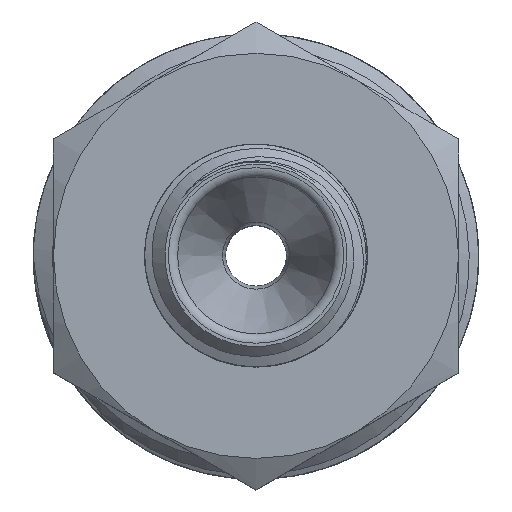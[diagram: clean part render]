
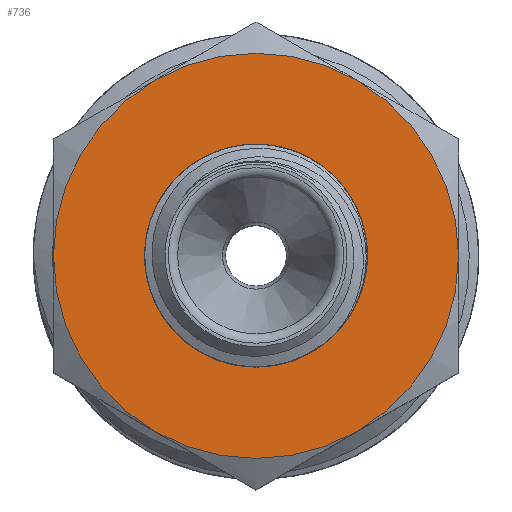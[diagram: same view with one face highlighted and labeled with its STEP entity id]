
A CAD part, top view. The second image highlights one B-rep face of the part: STEP entity #736.
In plain terms, the highlighted planar face has unit normal (0, 0, 1).
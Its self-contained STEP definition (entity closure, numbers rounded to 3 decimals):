
#163=PLANE('',#818);
#233=ORIENTED_EDGE('',*,*,#397,.T.);
#234=ORIENTED_EDGE('',*,*,#395,.F.);
#235=ORIENTED_EDGE('',*,*,#396,.F.);
#236=ORIENTED_EDGE('',*,*,#391,.F.);
#237=ORIENTED_EDGE('',*,*,#392,.F.);
#238=ORIENTED_EDGE('',*,*,#393,.F.);
#239=ORIENTED_EDGE('',*,*,#394,.F.);
#391=EDGE_CURVE('',#475,#450,#511,.T.);
#392=EDGE_CURVE('',#470,#475,#512,.T.);
#393=EDGE_CURVE('',#465,#470,#513,.T.);
#394=EDGE_CURVE('',#460,#465,#514,.T.);
#395=EDGE_CURVE('',#455,#460,#515,.T.);
#396=EDGE_CURVE('',#450,#455,#516,.T.);
#397=EDGE_CURVE('',#476,#476,#517,.T.);
#450=VERTEX_POINT('',#1132);
#455=VERTEX_POINT('',#1156);
#460=VERTEX_POINT('',#1182);
#465=VERTEX_POINT('',#1206);
#470=VERTEX_POINT('',#1232);
#475=VERTEX_POINT('',#1256);
#476=VERTEX_POINT('',#1279);
#511=CIRCLE('',#807,10.);
#512=CIRCLE('',#809,10.);
#513=CIRCLE('',#811,10.);
#514=CIRCLE('',#813,10.);
#515=CIRCLE('',#815,10.);
#516=CIRCLE('',#817,10.);
#517=CIRCLE('',#819,5.5);
#568=EDGE_LOOP('',(#233));
#569=EDGE_LOOP('',(#234,#235,#236,#237,#238,#239));
#650=FACE_BOUND('',#568,.T.);
#651=FACE_BOUND('',#569,.T.);
#736=ADVANCED_FACE('',(#650,#651),#163,.F.);
#807=AXIS2_PLACEMENT_3D('',#1266,#945,#946);
#809=AXIS2_PLACEMENT_3D('',#1268,#949,#950);
#811=AXIS2_PLACEMENT_3D('',#1270,#953,#954);
#813=AXIS2_PLACEMENT_3D('',#1272,#957,#958);
#815=AXIS2_PLACEMENT_3D('',#1274,#961,#962);
#817=AXIS2_PLACEMENT_3D('',#1276,#965,#966);
#818=AXIS2_PLACEMENT_3D('',#1277,#967,#968);
#819=AXIS2_PLACEMENT_3D('',#1278,#969,#970);
#945=DIRECTION('',(0.,0.,-1.));
#946=DIRECTION('',(-1.,0.,0.));
#949=DIRECTION('',(0.,0.,-1.));
#950=DIRECTION('',(-1.,0.,0.));
#953=DIRECTION('',(0.,0.,-1.));
#954=DIRECTION('',(-1.,0.,0.));
#957=DIRECTION('',(0.,0.,-1.));
#958=DIRECTION('',(-1.,0.,0.));
#961=DIRECTION('',(0.,0.,-1.));
#962=DIRECTION('',(-1.,0.,0.));
#965=DIRECTION('',(0.,0.,-1.));
#966=DIRECTION('',(-1.,0.,0.));
#967=DIRECTION('',(0.,0.,-1.));
#968=DIRECTION('',(-1.,0.,0.));
#969=DIRECTION('',(0.,0.,-1.));
#970=DIRECTION('',(-1.,0.,0.));
#1132=CARTESIAN_POINT('',(-5.,-8.66,8.));
#1156=CARTESIAN_POINT('',(-10.,0.,8.));
#1182=CARTESIAN_POINT('',(-5.,8.66,8.));
#1206=CARTESIAN_POINT('',(5.,8.66,8.));
#1232=CARTESIAN_POINT('',(10.,0.,8.));
#1256=CARTESIAN_POINT('',(5.,-8.66,8.));
#1266=CARTESIAN_POINT('',(0.,0.,8.));
#1268=CARTESIAN_POINT('',(0.,0.,8.));
#1270=CARTESIAN_POINT('',(0.,0.,8.));
#1272=CARTESIAN_POINT('',(0.,0.,8.));
#1274=CARTESIAN_POINT('',(0.,0.,8.));
#1276=CARTESIAN_POINT('',(0.,0.,8.));
#1277=CARTESIAN_POINT('',(0.,0.,8.));
#1278=CARTESIAN_POINT('',(0.,0.,8.));
#1279=CARTESIAN_POINT('',(-5.5,0.,8.));
